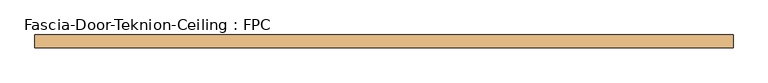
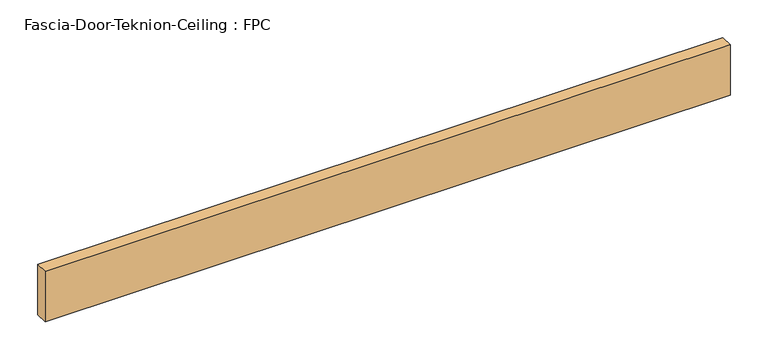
"""IFC4 building model written with IfcOpenShell, lengths in millimetres: door geometry, Fascia-Door-Teknion-Ceiling : FPC."""

import ifcopenshell
import ifcopenshell.guid

model = None  # the IFC model being written
_history = None  # IfcOwnerHistory: only IFC2X3 demands one
_inside = {}  # id of a spatial element -> (the spatial element, [elements in it])
_under = {}  # id of a project, library or spatial element -> (it, [spatial elements below it])
_declared = {}  # id of a project -> (the project, [libraries it declares])
_typed = {}  # id of a type object -> (the type object, [elements of that type])
_made_of = {}  # id of a material, layer set ... -> (it, [elements and type objects made of it])


def new_model(schema):
    """Start an empty IFC model of exactly this schema.

    Asked for "IFC4X3", IfcOpenShell would pick the latest addendum, in which some entities
    have other attributes; the version numbers below select the first issue.
    IFC2X3 requires an IfcOwnerHistory on every rooted entity: one is made here for all.
    """
    global model, _history
    if schema == "IFC4X3":
        model = ifcopenshell.file(schema_version=(4, 3, 0, 0))
    else:
        model = ifcopenshell.file(schema=schema)
    _inside.clear()
    _under.clear()
    _declared.clear()
    _typed.clear()
    _made_of.clear()
    _history = None
    if model.schema == "IFC2X3":
        org = make("IfcOrganization", Name="unknown")
        user = make(
            "IfcPersonAndOrganization",
            ThePerson=make("IfcPerson", FamilyName="unknown"),
            TheOrganization=org,
        )
        app = make(
            "IfcApplication",
            ApplicationDeveloper=org,
            Version="unknown",
            ApplicationFullName="unknown",
            ApplicationIdentifier="unknown",
        )
        _history = make(
            "IfcOwnerHistory",
            OwningUser=user,
            OwningApplication=app,
            ChangeAction="ADDED",
            CreationDate=0,
        )
    return model


def make(cls, **values):
    """One entity of the class cls with the attributes given. An attribute that is None is left unset."""
    return model.create_entity(
        cls, **{name: value for name, value in values.items() if value is not None}
    )


def rooted(cls, **values):
    """An entity with a GlobalId (a new one), such as an element, a storey or a relation."""
    return make(cls, GlobalId=ifcopenshell.guid.new(), OwnerHistory=_history, **values)


def si_unit(unit_type, name, prefix=None):
    """IfcSIUnit, for example si_unit("LENGTHUNIT", "METRE", prefix="MILLI")."""
    return make("IfcSIUnit", UnitType=unit_type, Prefix=prefix, Name=name)


def assignment(units):
    """IfcUnitAssignment: the units of a project."""
    return None if units is None else make("IfcUnitAssignment", Units=units)


def point(xyz):
    """IfcCartesianPoint."""
    return None if xyz is None else make("IfcCartesianPoint", Coordinates=xyz)


def direction(xyz):
    """IfcDirection."""
    return None if xyz is None else make("IfcDirection", DirectionRatios=xyz)


def frame(location, z_axis=None, x_axis=None):
    """IfcAxis2Placement3D, a coordinate frame: its origin and axes. An axis left out is left unset."""
    return make(
        "IfcAxis2Placement3D",
        Location=point(location),
        Axis=direction(z_axis),
        RefDirection=direction(x_axis),
    )


def origin():
    """The frame at (0, 0, 0) with its axes left unset."""
    return frame((0.0, 0.0, 0.0))


def origin_with_axes():
    """The frame at (0, 0, 0) with the z axis (0, 0, 1) and the x axis (1, 0, 0) written out."""
    return frame((0.0, 0.0, 0.0), z_axis=(0.0, 0.0, 1.0), x_axis=(1.0, 0.0, 0.0))


def place(relative_to, where):
    """IfcLocalPlacement: puts the frame where relative to a parent placement (None: the world)."""
    return make(
        "IfcLocalPlacement", PlacementRelTo=relative_to, RelativePlacement=where
    )


def context(
    kind, dimensions, precision=None, world=None, true_north=None, identifier=None
):
    """IfcGeometricRepresentationContext, for example the 3D "Model" context."""
    return make(
        "IfcGeometricRepresentationContext",
        ContextIdentifier=identifier,
        ContextType=kind,
        CoordinateSpaceDimension=dimensions,
        Precision=precision,
        WorldCoordinateSystem=world,
        TrueNorth=true_north,
    )


def project(units=None, contexts=None):
    """IfcProject with its units and contexts."""
    return rooted(
        "IfcProject",
        Name="project",
        RepresentationContexts=contexts,
        UnitsInContext=assignment(units),
    )


def spatial(cls, under=None, at=None, **own):
    """A site, building, storey or space (cls), placed at a placement, below another one or the project."""
    s = rooted(cls, ObjectPlacement=at, **own)
    if under is not None:
        _under.setdefault(under.id(), (under, []))[1].append(s)
    return s


def polyline(points):
    """IfcPolyline through the points."""
    return make("IfcPolyline", Points=[point(p) for p in points])


def outline(outer, holes=None, kind="AREA"):
    """IfcArbitraryClosedProfileDef: a profile drawn as a closed curve; with holes, ...WithVoids."""
    if holes is None:
        return make("IfcArbitraryClosedProfileDef", ProfileType=kind, OuterCurve=outer)
    return make(
        "IfcArbitraryProfileDefWithVoids",
        ProfileType=kind,
        OuterCurve=outer,
        InnerCurves=holes,
    )


def extrude(swept, where, along, depth):
    """IfcExtrudedAreaSolid: the profile swept, set in the frame where, extruded along a direction by depth."""
    return make(
        "IfcExtrudedAreaSolid",
        SweptArea=swept,
        Position=where,
        ExtrudedDirection=direction(along),
        Depth=depth,
    )


def shape(context_of_items, identifier, shape_type, items):
    """IfcShapeRepresentation: the items that make up one representation, for example the "Body"."""
    return make(
        "IfcShapeRepresentation",
        ContextOfItems=context_of_items,
        RepresentationIdentifier=identifier,
        RepresentationType=shape_type,
        Items=items,
    )


def source(mapping_origin, context_of_items, identifier, shape_type, items):
    """IfcRepresentationMap: a shape defined once, which mapped items show again and again."""
    return make(
        "IfcRepresentationMap",
        MappingOrigin=mapping_origin,
        MappedRepresentation=shape(context_of_items, identifier, shape_type, items),
    )


def transform(
    local_origin,
    x_axis=None,
    y_axis=None,
    z_axis=None,
    scale=None,
    scale2=None,
    scale3=None,
    uniform=True,
):
    """IfcCartesianTransformationOperator3D, or its non-uniform kind. x_axis, y_axis, z_axis: its Axis1, 2, 3."""
    if uniform:
        return make(
            "IfcCartesianTransformationOperator3D",
            Axis1=direction(x_axis),
            Axis2=direction(y_axis),
            LocalOrigin=point(local_origin),
            Scale=scale,
            Axis3=direction(z_axis),
        )
    return make(
        "IfcCartesianTransformationOperator3DnonUniform",
        Axis1=direction(x_axis),
        Axis2=direction(y_axis),
        LocalOrigin=point(local_origin),
        Scale=scale,
        Axis3=direction(z_axis),
        Scale2=scale2,
        Scale3=scale3,
    )


def mapped(mapping_source, mapping_target):
    """IfcMappedItem: shows the shape of a source again, moved by a transform."""
    return make(
        "IfcMappedItem", MappingSource=mapping_source, MappingTarget=mapping_target
    )


def made_of(thing, what):
    """Note that an element or type object is made of a material, layer set ...; save() writes the relation."""
    if what is not None:
        _made_of.setdefault(what.id(), (what, []))[1].append(thing)
    return thing


def element(
    cls,
    number,
    at=None,
    inside=None,
    cuts=None,
    type_object=None,
    material=None,
    context=None,
    identifier="Body",
    shape_type=None,
    held_by="IfcProductDefinitionShape",
    body=None,
    shapes=None,
    **own,
):
    """One element of the class cls, such as IfcWall. Its Tag is "e" and its number.

    at: its placement. inside: the storey or other place that contains it. cuts: it is an
    opening in that element (IfcRelVoidsElement). A single representation is given by context,
    identifier, shape_type and body (its items); several are given by shapes. held_by: the class
    of the entity that holds the representations. save() writes the other relations.
    """
    e = rooted(cls, Tag="e%d" % number, ObjectPlacement=at, **own)
    if body is not None:
        shapes = [shape(context, identifier, shape_type, body)]
    if shapes is not None:
        e.Representation = make(held_by, Representations=shapes)
    if inside is not None:
        _inside.setdefault(inside.id(), (inside, []))[1].append(e)
    if cuts is not None:
        rooted(
            "IfcRelVoidsElement", RelatingBuildingElement=cuts, RelatedOpeningElement=e
        )
    if type_object is not None:
        _typed.setdefault(type_object.id(), (type_object, []))[1].append(e)
    return made_of(e, material)


def aggregate(whole, parts):
    """IfcRelAggregates: a whole, such as a stair, and the parts it consists of."""
    return rooted("IfcRelAggregates", RelatingObject=whole, RelatedObjects=parts)


def save(model, path):
    """Write the relations noted so far, then the file.

    IfcRelAggregates (storeys below a building ...), IfcRelContainedInSpatialStructure (elements
    in a storey), IfcRelDefinesByType, IfcRelAssociatesMaterial and IfcRelDeclares: one each for
    every whole, place, type object, material and project.
    """
    for whole, parts in _under.values():
        aggregate(whole, parts)
    for where, things in _inside.values():
        rooted(
            "IfcRelContainedInSpatialStructure",
            RelatedElements=things,
            RelatingStructure=where,
        )
    for kind, things in _typed.values():
        rooted("IfcRelDefinesByType", RelatedObjects=things, RelatingType=kind)
    for what, things in _made_of.values():
        rooted("IfcRelAssociatesMaterial", RelatedObjects=things, RelatingMaterial=what)
    for by, libraries in _declared.values():
        rooted("IfcRelDeclares", RelatingContext=by, RelatedDefinitions=libraries)
    model.write(path)


def fascia_door_teknion_ceiling_fpc_6b3cde2a(model_context):
    return source(origin(), model_context, "Body", "SweptSolid", [
        extrude(outline(polyline([(523.2356344, 0.0), (523.2356344, -19.05), (-523.2356344, -19.05), (-523.2356344, 0.0), (523.2356344, 0.0)])), origin_with_axes(), (0.0, 0.0, 1.0), 81.28),
    ])


if __name__ == "__main__":
    model = new_model("IFC4")
    model_context = context("Model", 3, world=origin())
    ifc_project = project(units=[si_unit("LENGTHUNIT", "METRE", prefix="MILLI")], contexts=[model_context])
    site = spatial("IfcSite", under=ifc_project)
    building = spatial("IfcBuilding", under=site)
    placement = place(None, origin())
    fascia_door_teknion_ceiling_fpc_shape = fascia_door_teknion_ceiling_fpc_6b3cde2a(model_context)
    element("IfcDoor", 1, ObjectType="Fascia-Door-Teknion-Ceiling : FPC", at=placement, inside=building, context=model_context, shape_type="MappedRepresentation", body=[
        mapped(fascia_door_teknion_ceiling_fpc_shape, transform((0.0, 0.0, 0.0), x_axis=(1.0, 0.0, 0.0), y_axis=(0.0, 1.0, 0.0), z_axis=(0.0, 0.0, 1.0))),
    ])
    save(model, "model.ifc")
